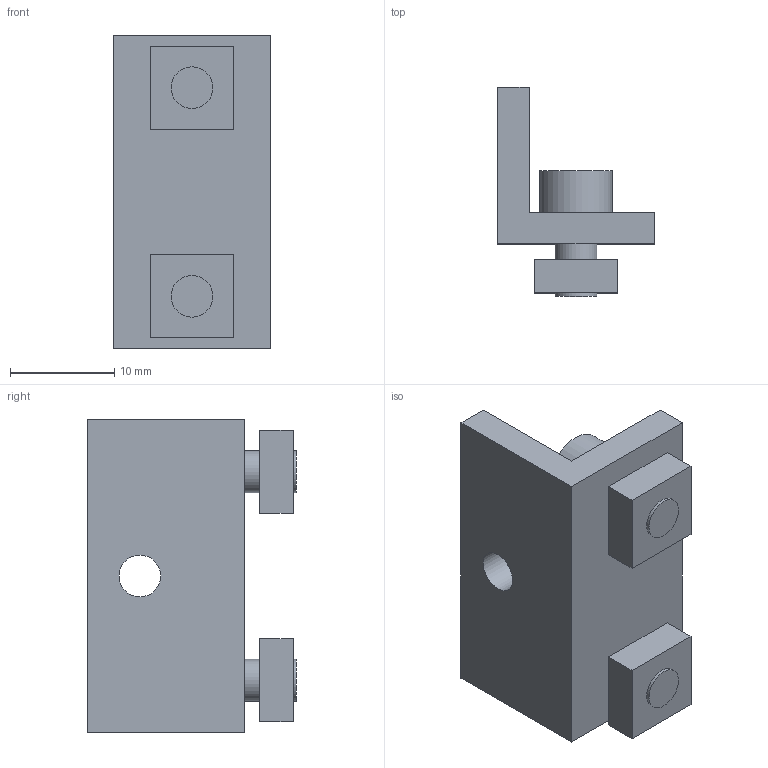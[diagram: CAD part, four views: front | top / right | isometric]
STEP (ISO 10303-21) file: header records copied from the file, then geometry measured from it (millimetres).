
FILE_DESCRIPTION((''),'2;1');
FILE_NAME('C:\Documents and Settings\古川典政\My Documents\Inventor\HP用\MasterData\BRACKET\M4\AMB-04.stp','2008-07-31T08:43:18',(''),(''),'Autodesk Inventor 2008','Autodesk Inventor 2008','');
FILE_SCHEMA(('CONFIG_CONTROL_DESIGN'));
Length unit declared in the file: millimetre
Products named in the file (6): AMB-04; AMB-041; AMB-042; AMB-043; AMB-044; AMB-045
Assembly tree (5 placements, depth 2):
  AMB-04
    AMB-041
    AMB-042
    AMB-043
    AMB-044
    AMB-045
Bounding box: 15 x 20 x 30 mm (x, y, z)
Volume: 3135 mm3; surface area: 3017.6 mm2
Topology: 5 solids, 5 shells, 35 faces, 74 edges, 51 vertices
Faces by surface type: plane 26, cylinder 5, bspline 4
Full cylindrical faces by diameter (mm): 4 x2, 4.5 x1, 7 x2
Entity records: 1087 total; most frequent: CARTESIAN_POINT 220, DIRECTION 162, ORIENTED_EDGE 120, AXIS2_PLACEMENT_3D 60, EDGE_CURVE 60, EDGE_LOOP 56, VERTEX_POINT 46, VECTOR 42
